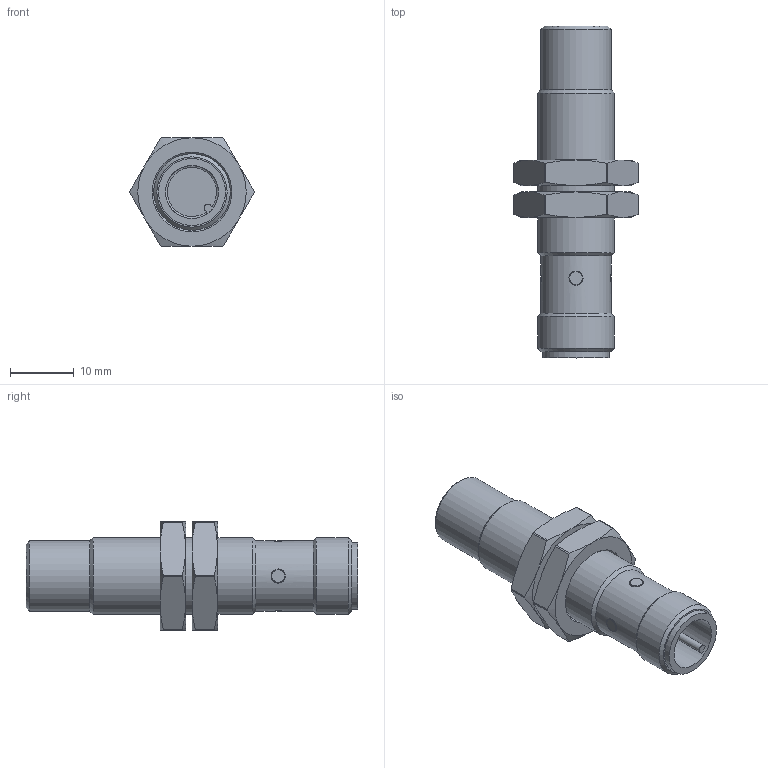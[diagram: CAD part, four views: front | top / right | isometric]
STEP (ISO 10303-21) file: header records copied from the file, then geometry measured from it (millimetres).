
FILE_DESCRIPTION (( 'STEP AP203' ), '1' );
FILE_NAME ('Ni-M12-X-H1.step', '2019-07-17T19:35:55', ( '' ), ( '' ), 'SwSTEP 2.0', 'SolidWorks 2017', '' );
FILE_SCHEMA (( 'CONFIG_CONTROL_DESIGN' ));
Length unit declared in the file: millimetre
Products named in the file (1): Ni-M12-X-H1
Bounding box: 19.5 x 52 x 17 mm (x, y, z)
Volume: 6096.8 mm3; surface area: 3083.9 mm2
Topology: 1 solids, 1 shells, 102 faces, 227 edges, 136 vertices
Faces by surface type: cylinder 37, cone 33, plane 27, torus 5
Full cylindrical faces by diameter (mm): 8.3 x1, 10.5 x1, 11 x2, 12 x4
Entity records: 2701 total; most frequent: CARTESIAN_POINT 652, DIRECTION 426, ORIENTED_EDGE 384, AXIS2_PLACEMENT_3D 197, EDGE_CURVE 192, EDGE_LOOP 133, VERTEX_POINT 123, FACE_OUTER_BOUND 114
